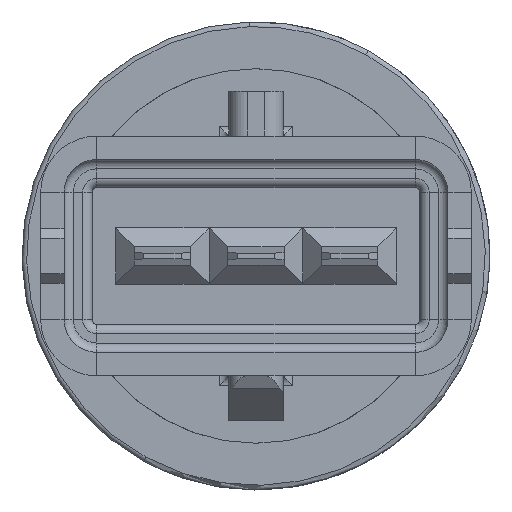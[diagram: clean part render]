
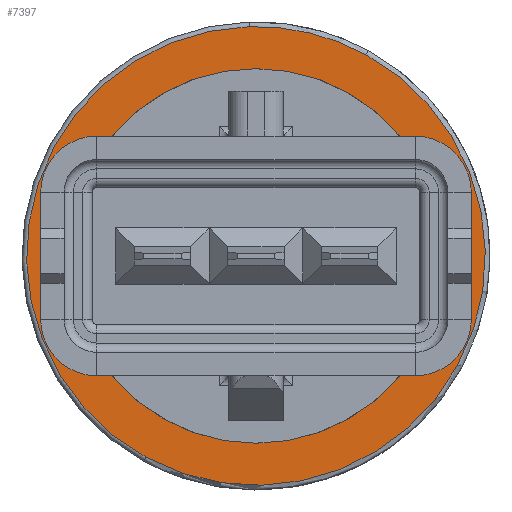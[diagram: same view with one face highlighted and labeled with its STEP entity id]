
A CAD part, left-side view. The second image highlights one B-rep face of the part: STEP entity #7397.
In plain terms, the highlighted planar face has unit normal (-1, 0, 0).
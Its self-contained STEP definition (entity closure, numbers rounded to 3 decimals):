
#7290=AXIS2_PLACEMENT_3D('Circle Axis2P3D',#7288,#7289,$) ;
#7328=AXIS2_PLACEMENT_3D('Circle Axis2P3D',#7326,#7327,$) ;
#7352=AXIS2_PLACEMENT_3D('Circle Axis2P3D',#7350,#7351,$) ;
#7372=AXIS2_PLACEMENT_3D('Plane Axis2P3D',#7369,#7370,#7371) ;
#7381=AXIS2_PLACEMENT_3D('Circle Axis2P3D',#7379,#7380,$) ;
#7390=AXIS2_PLACEMENT_3D('Circle Axis2P3D',#7388,#7389,$) ;
#7285=CARTESIAN_POINT('Vertex',(-31.5,-5.873,10.75)) ;
#7288=CARTESIAN_POINT('Axis2P3D Location',(-31.5,0.,0.)) ;
#7292=CARTESIAN_POINT('Vertex',(-31.5,5.873,-10.75)) ;
#7323=CARTESIAN_POINT('Vertex',(-31.5,0.366,12.245)) ;
#7326=CARTESIAN_POINT('Axis2P3D Location',(-31.5,0.,0.)) ;
#7350=CARTESIAN_POINT('Axis2P3D Location',(-31.5,0.,0.)) ;
#7369=CARTESIAN_POINT('Axis2P3D Location',(-31.5,0.,12.5)) ;
#7379=CARTESIAN_POINT('Axis2P3D Location',(-31.5,0.,0.)) ;
#7383=CARTESIAN_POINT('Vertex',(-31.5,-10.,0.)) ;
#7385=CARTESIAN_POINT('Vertex',(-31.5,10.,0.)) ;
#7388=CARTESIAN_POINT('Axis2P3D Location',(-31.5,0.,0.)) ;
#7289=DIRECTION('Axis2P3D Direction',(1.,0.,0.)) ;
#7327=DIRECTION('Axis2P3D Direction',(1.,0.,0.)) ;
#7351=DIRECTION('Axis2P3D Direction',(1.,0.,-0.)) ;
#7370=DIRECTION('Axis2P3D Direction',(1.,0.,0.)) ;
#7371=DIRECTION('Axis2P3D XDirection',(0.,1.,0.)) ;
#7380=DIRECTION('Axis2P3D Direction',(1.,0.,0.)) ;
#7389=DIRECTION('Axis2P3D Direction',(1.,0.,0.)) ;
#7375=ORIENTED_EDGE('',*,*,#7354,.F.) ;
#7376=ORIENTED_EDGE('',*,*,#7330,.F.) ;
#7377=ORIENTED_EDGE('',*,*,#7294,.F.) ;
#7394=ORIENTED_EDGE('',*,*,#7387,.T.) ;
#7395=ORIENTED_EDGE('',*,*,#7392,.T.) ;
#7396=FACE_BOUND('',#7393,.T.) ;
#7397=ADVANCED_FACE('PartBody',(#7378,#7396),#7373,.F.) ;
#7291=CIRCLE('generated circle',#7290,12.25) ;
#7329=CIRCLE('generated circle',#7328,12.25) ;
#7353=CIRCLE('generated circle',#7352,12.25) ;
#7382=CIRCLE('generated circle',#7381,10.) ;
#7391=CIRCLE('generated circle',#7390,10.) ;
#7294=EDGE_CURVE('',#7286,#7293,#7291,.T.) ;
#7330=EDGE_CURVE('',#7293,#7324,#7329,.T.) ;
#7354=EDGE_CURVE('',#7324,#7286,#7353,.T.) ;
#7387=EDGE_CURVE('',#7384,#7386,#7382,.T.) ;
#7392=EDGE_CURVE('',#7386,#7384,#7391,.T.) ;
#7374=EDGE_LOOP('',(#7375,#7376,#7377)) ;
#7393=EDGE_LOOP('',(#7394,#7395)) ;
#7378=FACE_OUTER_BOUND('',#7374,.T.) ;
#7373=PLANE('Plane',#7372) ;
#7286=VERTEX_POINT('',#7285) ;
#7293=VERTEX_POINT('',#7292) ;
#7324=VERTEX_POINT('',#7323) ;
#7384=VERTEX_POINT('',#7383) ;
#7386=VERTEX_POINT('',#7385) ;
